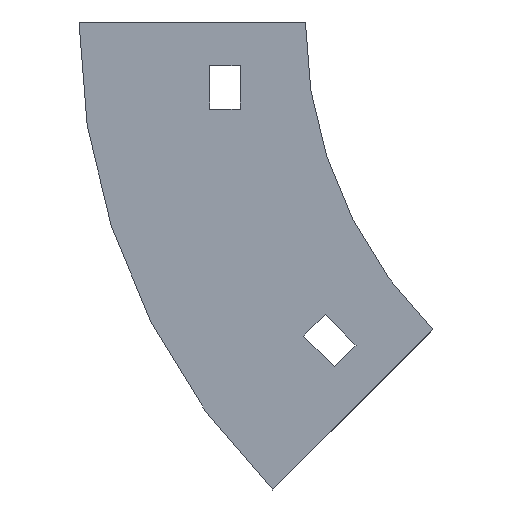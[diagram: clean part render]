
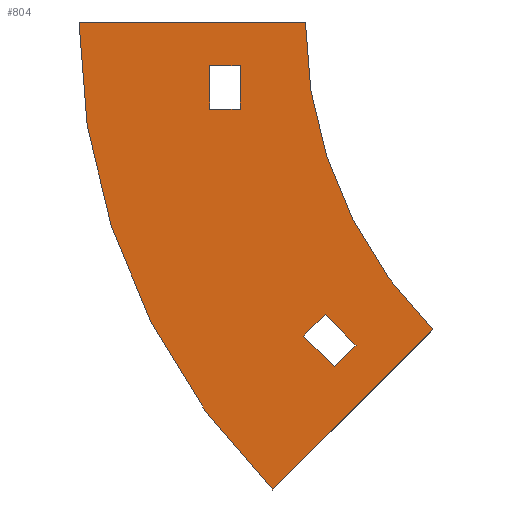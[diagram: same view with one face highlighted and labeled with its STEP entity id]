
A CAD part, left-side view. The second image highlights one B-rep face of the part: STEP entity #804.
In plain terms, the highlighted planar face has unit normal (-1, 0, 0).
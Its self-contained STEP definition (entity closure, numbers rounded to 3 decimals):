
#22 = FACE_OUTER_BOUND ( 'NONE', #1093, .T. ) ;
#23 = LINE ( 'NONE', #565, #603 ) ;
#29 = ORIENTED_EDGE ( 'NONE', *, *, #877, .T. ) ;
#33 = CARTESIAN_POINT ( 'NONE',  ( -102., 22., -20. ) ) ;
#34 = CARTESIAN_POINT ( 'NONE',  ( -102., -100., 0. ) ) ;
#46 = CIRCLE ( 'NONE', #363, 100. ) ;
#51 = DIRECTION ( 'NONE',  ( 0., 1., 0. ) ) ;
#60 = LINE ( 'NONE', #754, #897 ) ;
#69 = ORIENTED_EDGE ( 'NONE', *, *, #1031, .F. ) ;
#70 = VECTOR ( 'NONE', #934, 1000. ) ;
#98 = FACE_BOUND ( 'NONE', #976, .T. ) ;
#150 = EDGE_CURVE ( 'NONE', #966, #971, #762, .T. ) ;
#155 = VECTOR ( 'NONE', #198, 1000. ) ;
#160 = CARTESIAN_POINT ( 'NONE',  ( -102., -29.289, -70.711 ) ) ;
#167 = ORIENTED_EDGE ( 'NONE', *, *, #1130, .T. ) ;
#173 = EDGE_LOOP ( 'NONE', ( #167, #29, #189, #223 ) ) ;
#189 = ORIENTED_EDGE ( 'NONE', *, *, #150, .T. ) ;
#198 = DIRECTION ( 'NONE',  ( 0., -0.707, 0.707 ) ) ;
#202 = VERTEX_POINT ( 'NONE', #160 ) ;
#205 = DIRECTION ( 'NONE',  ( 0., 0., 1. ) ) ;
#210 = CARTESIAN_POINT ( 'NONE',  ( -102., -4.541, -67.175 ) ) ;
#215 = VECTOR ( 'NONE', #780, 1000. ) ;
#223 = ORIENTED_EDGE ( 'NONE', *, *, #503, .T. ) ;
#229 = VECTOR ( 'NONE', #51, 1000. ) ;
#240 = ORIENTED_EDGE ( 'NONE', *, *, #975, .F. ) ;
#255 = DIRECTION ( 'NONE',  ( 0., 0., 1. ) ) ;
#269 = PLANE ( 'NONE',  #537 ) ;
#275 = LINE ( 'NONE', #359, #155 ) ;
#282 = VECTOR ( 'NONE', #883, 1000. ) ;
#288 = EDGE_CURVE ( 'NONE', #834, #202, #46, .T. ) ;
#303 = DIRECTION ( 'NONE',  ( 0., 0.707, -0.707 ) ) ;
#306 = EDGE_CURVE ( 'NONE', #643, #551, #1099, .T. ) ;
#316 = CARTESIAN_POINT ( 'NONE',  ( -102., 52., 0. ) ) ;
#318 = VECTOR ( 'NONE', #638, 1000. ) ;
#329 = CARTESIAN_POINT ( 'NONE',  ( -102., 52., 0. ) ) ;
#359 = CARTESIAN_POINT ( 'NONE',  ( -102., -6.662, -79.196 ) ) ;
#363 = AXIS2_PLACEMENT_3D ( 'NONE', #34, #1047, #255 ) ;
#374 = CARTESIAN_POINT ( 'NONE',  ( -102., -6.662, -79.196 ) ) ;
#375 = CARTESIAN_POINT ( 'NONE',  ( -102., 0., 0. ) ) ;
#381 = DIRECTION ( 'NONE',  ( 0., 0., 1. ) ) ;
#385 = CARTESIAN_POINT ( 'NONE',  ( -102., 15., -10. ) ) ;
#395 = VERTEX_POINT ( 'NONE', #210 ) ;
#398 = VERTEX_POINT ( 'NONE', #939 ) ;
#404 = EDGE_CURVE ( 'NONE', #202, #643, #509, .T. ) ;
#419 = CARTESIAN_POINT ( 'NONE',  ( -102., 0.409, -72.125 ) ) ;
#443 = ORIENTED_EDGE ( 'NONE', *, *, #997, .F. ) ;
#454 = VERTEX_POINT ( 'NONE', #697 ) ;
#458 = CARTESIAN_POINT ( 'NONE',  ( -102., 22., -10. ) ) ;
#494 = CARTESIAN_POINT ( 'NONE',  ( -102., -29.289, -70.711 ) ) ;
#503 = EDGE_CURVE ( 'NONE', #971, #398, #824, .T. ) ;
#509 = LINE ( 'NONE', #494, #854 ) ;
#515 = DIRECTION ( 'NONE',  ( 0., -1., 0. ) ) ;
#537 = AXIS2_PLACEMENT_3D ( 'NONE', #828, #983, #381 ) ;
#549 = LINE ( 'NONE', #458, #282 ) ;
#551 = VERTEX_POINT ( 'NONE', #329 ) ;
#565 = CARTESIAN_POINT ( 'NONE',  ( -102., -11.612, -74.246 ) ) ;
#575 = CARTESIAN_POINT ( 'NONE',  ( -102., 15., -10. ) ) ;
#598 = DIRECTION ( 'NONE',  ( 0., 0.707, -0.707 ) ) ;
#603 = VECTOR ( 'NONE', #726, 1000. ) ;
#626 = VERTEX_POINT ( 'NONE', #385 ) ;
#638 = DIRECTION ( 'NONE',  ( 0., 0., 1. ) ) ;
#643 = VERTEX_POINT ( 'NONE', #888 ) ;
#658 = CARTESIAN_POINT ( 'NONE',  ( -102., -100., 0. ) ) ;
#669 = ORIENTED_EDGE ( 'NONE', *, *, #288, .F. ) ;
#697 = CARTESIAN_POINT ( 'NONE',  ( -102., -11.612, -74.246 ) ) ;
#726 = DIRECTION ( 'NONE',  ( 0., 0.707, 0.707 ) ) ;
#754 = CARTESIAN_POINT ( 'NONE',  ( -102., 0.409, -72.125 ) ) ;
#756 = ORIENTED_EDGE ( 'NONE', *, *, #404, .F. ) ;
#762 = LINE ( 'NONE', #33, #229 ) ;
#766 = AXIS2_PLACEMENT_3D ( 'NONE', #658, #912, #205 ) ;
#772 = CARTESIAN_POINT ( 'NONE',  ( -102., -6.662, -79.196 ) ) ;
#780 = DIRECTION ( 'NONE',  ( 0., 0., -1. ) ) ;
#804 = ADVANCED_FACE ( 'NONE', ( #985, #22, #98 ), #269, .T. ) ;
#824 = LINE ( 'NONE', #978, #318 ) ;
#828 = CARTESIAN_POINT ( 'NONE',  ( -102., -100., 0. ) ) ;
#834 = VERTEX_POINT ( 'NONE', #375 ) ;
#854 = VECTOR ( 'NONE', #303, 1000. ) ;
#859 = VERTEX_POINT ( 'NONE', #419 ) ;
#863 = CARTESIAN_POINT ( 'NONE',  ( -102., 22., -20. ) ) ;
#877 = EDGE_CURVE ( 'NONE', #626, #966, #1092, .T. ) ;
#883 = DIRECTION ( 'NONE',  ( 0., -1., 0. ) ) ;
#888 = CARTESIAN_POINT ( 'NONE',  ( -102., 7.48, -107.48 ) ) ;
#897 = VECTOR ( 'NONE', #598, 1000. ) ;
#912 = DIRECTION ( 'NONE',  ( 1., 0., 0. ) ) ;
#934 = DIRECTION ( 'NONE',  ( 0., -0.707, -0.707 ) ) ;
#939 = CARTESIAN_POINT ( 'NONE',  ( -102., 22., -10. ) ) ;
#945 = LINE ( 'NONE', #316, #1010 ) ;
#961 = EDGE_CURVE ( 'NONE', #551, #834, #945, .T. ) ;
#966 = VERTEX_POINT ( 'NONE', #1118 ) ;
#971 = VERTEX_POINT ( 'NONE', #863 ) ;
#975 = EDGE_CURVE ( 'NONE', #1147, #454, #275, .T. ) ;
#976 = EDGE_LOOP ( 'NONE', ( #443, #240, #1033, #69 ) ) ;
#978 = CARTESIAN_POINT ( 'NONE',  ( -102., 22., -10. ) ) ;
#983 = DIRECTION ( 'NONE',  ( -1., 0., 0. ) ) ;
#985 = FACE_BOUND ( 'NONE', #173, .T. ) ;
#997 = EDGE_CURVE ( 'NONE', #454, #395, #23, .T. ) ;
#1007 = ORIENTED_EDGE ( 'NONE', *, *, #306, .F. ) ;
#1010 = VECTOR ( 'NONE', #515, 1000. ) ;
#1031 = EDGE_CURVE ( 'NONE', #395, #859, #60, .T. ) ;
#1033 = ORIENTED_EDGE ( 'NONE', *, *, #1098, .F. ) ;
#1047 = DIRECTION ( 'NONE',  ( -1., 0., 0. ) ) ;
#1061 = ORIENTED_EDGE ( 'NONE', *, *, #961, .F. ) ;
#1087 = LINE ( 'NONE', #772, #70 ) ;
#1092 = LINE ( 'NONE', #575, #215 ) ;
#1093 = EDGE_LOOP ( 'NONE', ( #669, #1061, #1007, #756 ) ) ;
#1098 = EDGE_CURVE ( 'NONE', #859, #1147, #1087, .T. ) ;
#1099 = CIRCLE ( 'NONE', #766, 152. ) ;
#1118 = CARTESIAN_POINT ( 'NONE',  ( -102., 15., -20. ) ) ;
#1130 = EDGE_CURVE ( 'NONE', #398, #626, #549, .T. ) ;
#1147 = VERTEX_POINT ( 'NONE', #374 ) ;
